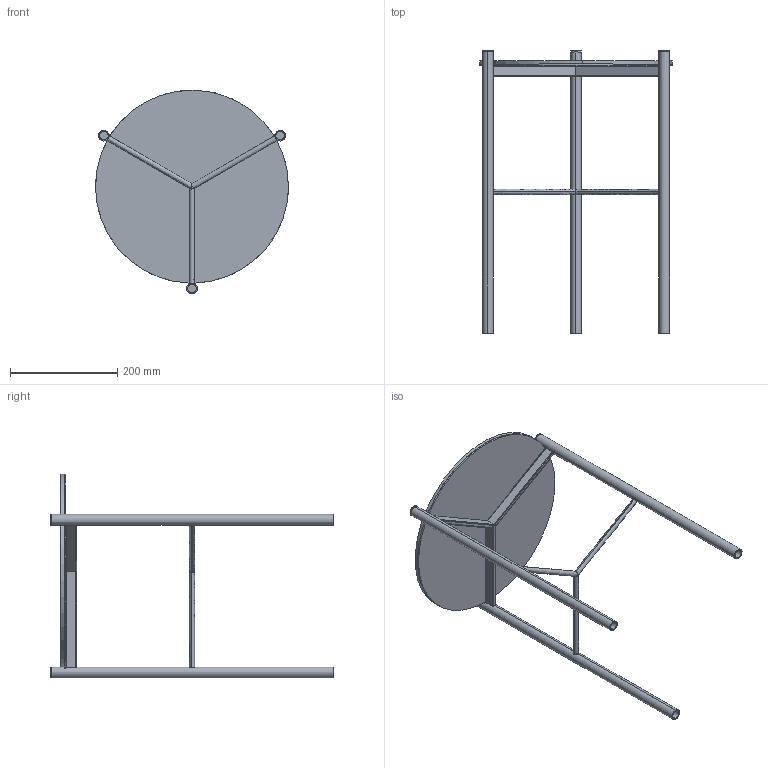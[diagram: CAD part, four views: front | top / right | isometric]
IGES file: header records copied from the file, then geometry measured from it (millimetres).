
Start section: SolidWorks IGES file using analytic representation for surfaces
Global section: file name: Y:\eforma\TECNICO\SOLIDWORKS\E-FORMA\2-TAVOLINI\JACK\02 parts\J601C.IGS; native system: SolidWorks 2022; preprocessor: SolidWorks 2022; author: eforma.tech; date: 240806.134527; units: millimetre
Bounding box: 359.95 x 527 x 380.07 mm (x, y, z)
Volume: 1138524.7 mm3; surface area: 683738.6 mm2
Topology: 14 solids, 14 shells, 125 faces, 293 edges, 194 vertices
Faces by surface type: revolution 73, plane 52
